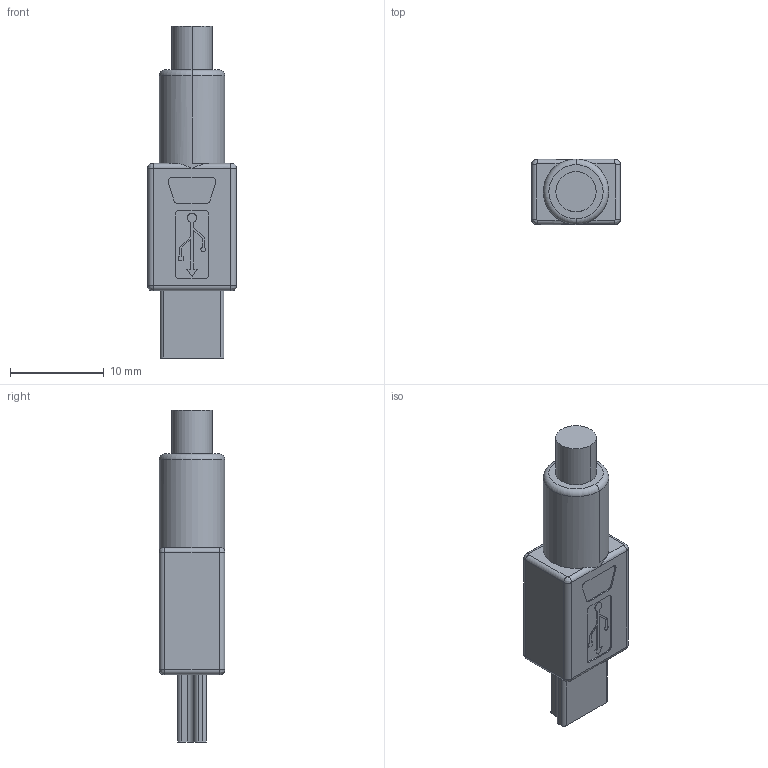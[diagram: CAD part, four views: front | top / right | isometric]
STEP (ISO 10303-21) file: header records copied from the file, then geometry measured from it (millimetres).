
FILE_DESCRIPTION((''),'2;1');
FILE_NAME('PLUG-MINI-USB_PRT','2008-06-30T',('GRA'),(''),'PRO/ENGINEER BY PARAMETRIC TECHNOLOGY CORPORATION, 2006170','PRO/ENGINEER BY PARAMETRIC TECHNOLOGY CORPORATION, 2006170','');
FILE_SCHEMA(('CONFIG_CONTROL_DESIGN'));
Length unit declared in the file: millimetre
Products named in the file (1): PLUG-MINI-USB_PRT
Bounding box: 9.5 x 7 x 35.5 mm (x, y, z)
Volume: 1379.9 mm3; surface area: 1085 mm2
Topology: 1 solids, 1 shells, 113 faces, 295 edges, 190 vertices
Faces by surface type: plane 59, cylinder 44, bspline 8, torus 2
Entity records: 3628 total; most frequent: CARTESIAN_POINT 761, DIRECTION 599, ORIENTED_EDGE 590, EDGE_CURVE 295, AXIS2_PLACEMENT_3D 203, VECTOR 193, LINE 193, VERTEX_POINT 190
